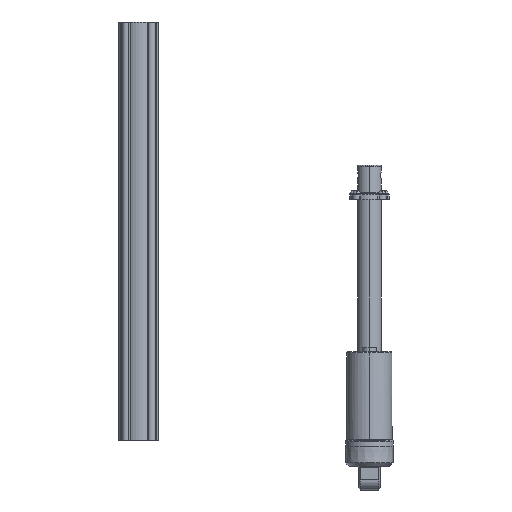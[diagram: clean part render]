
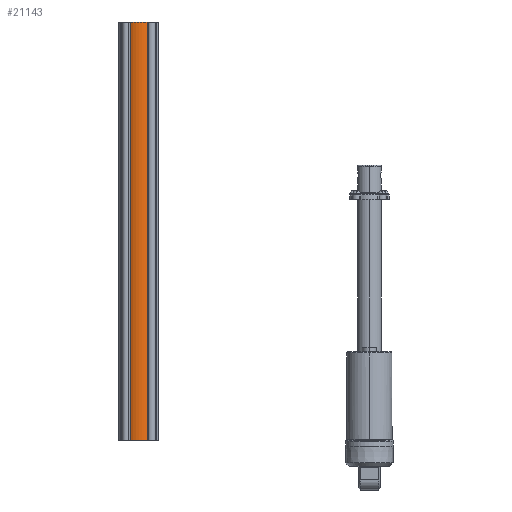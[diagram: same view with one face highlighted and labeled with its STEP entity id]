
A CAD part, left-side view. The second image highlights one B-rep face of the part: STEP entity #21143.
In plain terms, the highlighted cylindrical face has radius 15 mm (diameter 30 mm), a partial arc.
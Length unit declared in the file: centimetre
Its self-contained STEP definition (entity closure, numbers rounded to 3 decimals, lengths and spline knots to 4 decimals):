
#3224=CYLINDRICAL_SURFACE('',#23807,1.5);
#4313=LINE('',#34743,#25443);
#4314=LINE('',#34749,#25444);
#5996=VERTEX_POINT('',#34742);
#5997=VERTEX_POINT('',#34744);
#5998=VERTEX_POINT('',#34748);
#5999=VERTEX_POINT('',#34750);
#7784=CIRCLE('',#23808,1.5);
#7785=CIRCLE('',#23809,1.5);
#10422=EDGE_CURVE('',#5997,#5996,#4313,.T.);
#10424=EDGE_CURVE('',#5996,#5998,#7784,.T.);
#10425=EDGE_CURVE('',#5999,#5998,#4314,.T.);
#10426=EDGE_CURVE('',#5999,#5997,#7785,.T.);
#15720=ORIENTED_EDGE('',*,*,#10424,.T.);
#15721=ORIENTED_EDGE('',*,*,#10425,.F.);
#15722=ORIENTED_EDGE('',*,*,#10426,.T.);
#15723=ORIENTED_EDGE('',*,*,#10422,.T.);
#18585=EDGE_LOOP('',(#15720,#15721,#15722,#15723));
#19893=FACE_BOUND('',#18585,.T.);
#21143=ADVANCED_FACE('',(#19893),#3224,.T.);
#23807=AXIS2_PLACEMENT_3D('',#34746,#42604,#42605);
#23808=AXIS2_PLACEMENT_3D('',#34747,#42606,#42607);
#23809=AXIS2_PLACEMENT_3D('',#34751,#42609,#42610);
#25443=VECTOR('',#42601,1.);
#25444=VECTOR('',#42608,1.);
#34742=CARTESIAN_POINT('',(14.8607,18.6992,35.2));
#34743=CARTESIAN_POINT('',(14.8607,18.6992,0.));
#34744=CARTESIAN_POINT('',(14.8607,18.6992,0.));
#34746=CARTESIAN_POINT('',(16.1761,19.42,0.));
#34747=CARTESIAN_POINT('',(16.1761,19.42,35.2));
#34748=CARTESIAN_POINT('',(14.8607,20.1407,35.2));
#34749=CARTESIAN_POINT('',(14.8607,20.1407,0.));
#34750=CARTESIAN_POINT('',(14.8607,20.1407,0.));
#34751=CARTESIAN_POINT('',(16.1761,19.42,0.));
#42601=DIRECTION('',(0.,0.,1.));
#42604=DIRECTION('',(0.,0.,1.));
#42605=DIRECTION('',(1.5,0.,0.));
#42606=DIRECTION('',(0.,0.,-1.));
#42607=DIRECTION('',(1.5,0.,0.));
#42608=DIRECTION('',(0.,0.,1.));
#42609=DIRECTION('',(0.,0.,1.));
#42610=DIRECTION('',(1.5,0.,0.));
